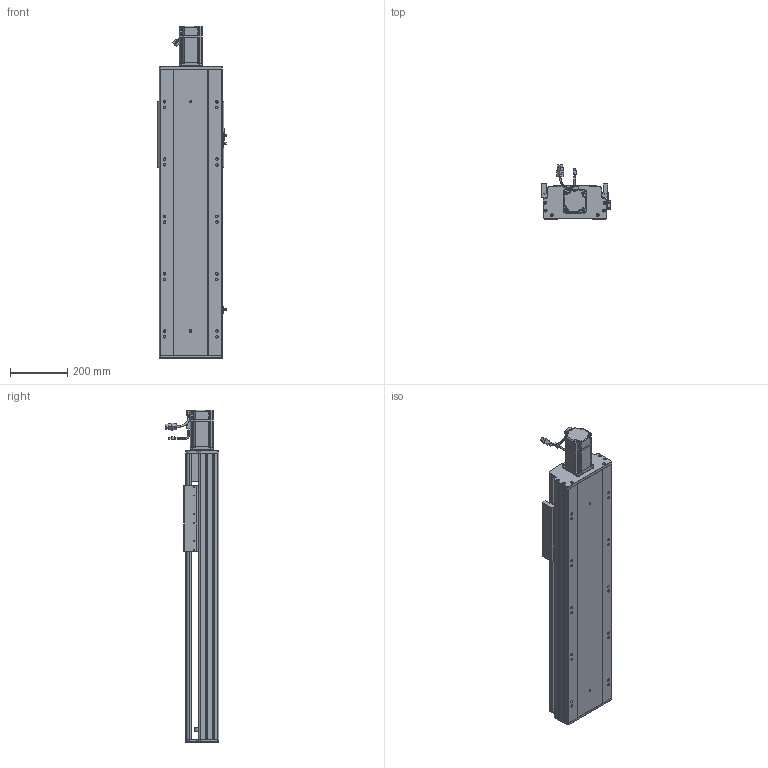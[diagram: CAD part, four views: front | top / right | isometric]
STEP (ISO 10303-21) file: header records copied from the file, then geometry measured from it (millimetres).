
FILE_DESCRIPTION (( 'STEP AP203' ), '1' );
FILE_NAME ('RY220-L2525-300-MK.SLDASM_600.step', '2022-07-04T02:57:31', ( '' ), ( '' ), 'SwSTEP 2.0', 'SolidWorks 2016', '' );
FILE_SCHEMA (( 'CONFIG_CONTROL_DESIGN' ));
Length unit declared in the file: millimetre
Products named in the file (12): RY220菁釱MK-300_600; 怢湛750W_ECMA-CX0807ES; RY220半封闭25-32螺母铝滑块; RY220-俋离672覜茼んえ; RY220ヶ裔啣; 滅袉蝶18-12; RY220-300-奻裔啣-MK_600; 覜茼ん672; RY220綴裔啣; 滅袉蝶18-15; RY220-L2525-300-MK.SLDASM_600; RY220电机支撑座FK20（PCD90M6）
Assembly tree (15 placements, depth 2):
  RY220-L2525-300-MK.SLDASM_600
    RY220菁釱MK-300_600
    RY220电机支撑座FK20（PCD90M6）
    怢湛750W_ECMA-CX0807ES
    滅袉蝶18-12  x2
    RY220ヶ裔啣
    RY220綴裔啣
    覜茼ん672  x3
    RY220半封闭25-32螺母铝滑块
    RY220-300-奻裔啣-MK_600
    RY220-俋离672覜茼んえ
    滅袉蝶18-15  x2
Bounding box: 238.7 x 187.27 x 1158.3 mm (x, y, z)
Volume: 9785703.8 mm3; surface area: 2587935.7 mm2
Topology: 16 solids, 16 shells, 2130 faces, 5898 edges, 3738 vertices
Faces by surface type: cylinder 940, plane 907, cone 221, bspline 36, sphere 16, torus 10
Entity records: 69906 total; most frequent: CARTESIAN_POINT 19951, ORIENTED_EDGE 10392, DIRECTION 9755, EDGE_CURVE 5196, AXIS2_PLACEMENT_3D 3407, VERTEX_POINT 3394, VECTOR 2941, LINE 2941
